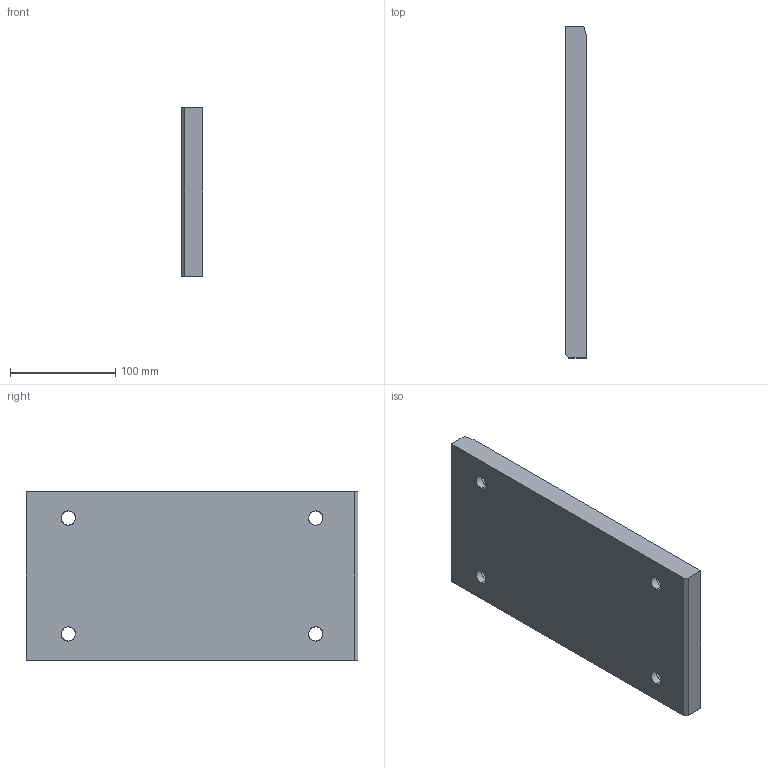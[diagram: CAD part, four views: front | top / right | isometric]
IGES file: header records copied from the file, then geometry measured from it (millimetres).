
Start section: START RECORD GO HERE.
Global section: file name: A915-160X315.igs; native system: DASSAULT SYSTEMES CATIA V5 R20 - www.3ds.com; preprocessor: CATIA Version 5 Release 20 ; author: Utente; organization: NB04-ASUS; date: 20200407.205220; units: millimetre
Bounding box: 20 x 315 x 160 mm (x, y, z)
Surface area: 122111.6 mm2 (no closed solid volume)
Topology: 0 solids, 0 shells, 37 faces, 170 edges, 170 vertices
Faces by surface type: revolution 25, extrusion 12
